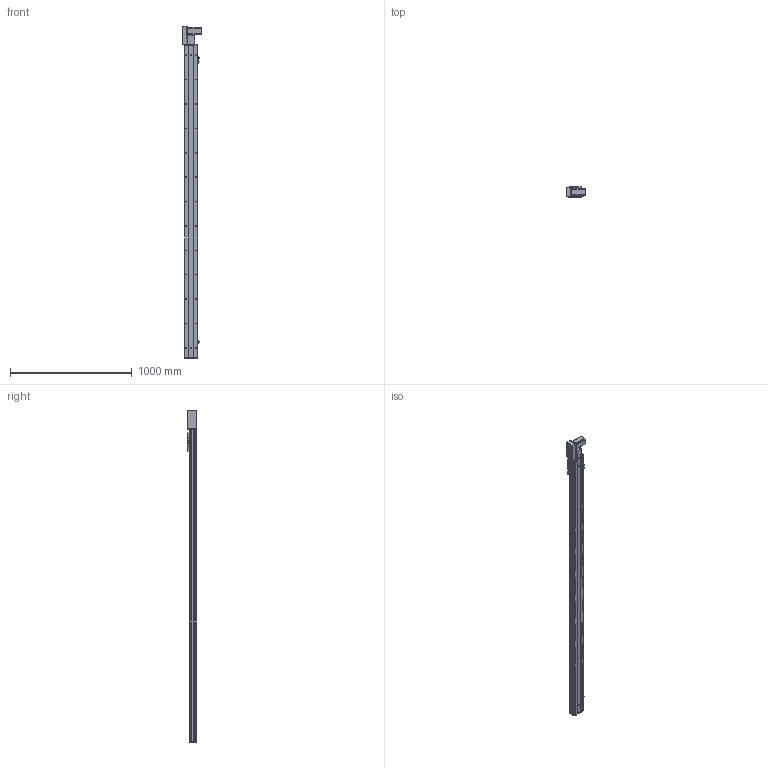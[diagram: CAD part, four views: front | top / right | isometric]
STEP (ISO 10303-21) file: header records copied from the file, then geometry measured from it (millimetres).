
FILE_DESCRIPTION (( 'STEP AP203' ), '1' );
FILE_NAME ('Y10CB-D90-S2300-BL-P400W.STEP', '2020-02-15T08:33:02', ( '微软用户' ), ( '微软中国' ), 'SwSTEP 2.0', 'SolidWorks 2017', '' );
FILE_SCHEMA (( 'CONFIG_CONTROL_DESIGN' ));
Length unit declared in the file: millimetre
Products named in the file (18): Y10C---詩湍揤啣; Y10B-耜蚾蟀諉啣----; 10CB9-掛极; 0B-萇儂楊擘啣; 10CB-耜裔; san松下电机400不带刹车----; Y135C-陔俋离換覜結え-; 0B-源倛裔啣; Y100-135俋离換覜ん--; 0B-埴倛裔啣; 0CB-雄赽釱---; Y10CB-D90-S2300-BL-P400W; Y俋欶BR----; 0Cb-俋欶---; 10CB-詩湍-; Y10B-々湍喘謫眊楊擘啣--; Y10CB- 掛极耜裔啣-毀---; Y10B--々湍喘謫眊--666
Assembly tree (21 placements, depth 2):
  Y10CB-D90-S2300-BL-P400W
    0CB-雄赽釱---
    0Cb-俋欶---
    Y10B-々湍喘謫眊楊擘啣--
    Y10B--々湍喘謫眊--666
    Y10B-耜蚾蟀諉啣----
    0B-萇儂楊擘啣
    san松下电机400不带刹车----
    0B-源倛裔啣
    0B-埴倛裔啣
    Y俋欶BR----
    10CB-詩湍-
    Y10CB- 掛极耜裔啣-毀---  x2
    Y10C---詩湍揤啣  x2
    10CB9-掛极
    10CB-耜裔
    Y135C-陔俋离換覜結え-
    Y100-135俋离換覜ん--  x3
Bounding box: 157.5 x 80.5 x 2722.5 mm (x, y, z)
Volume: 5405385.3 mm3; surface area: 2557040.7 mm2
Topology: 21 solids, 21 shells, 1062 faces, 2883 edges, 1874 vertices
Faces by surface type: cylinder 547, plane 491, cone 24
Entity records: 33904 total; most frequent: CARTESIAN_POINT 6357, DIRECTION 5402, ORIENTED_EDGE 5236, EDGE_CURVE 2618, AXIS2_PLACEMENT_3D 1929, VERTEX_POINT 1700, VECTOR 1544, LINE 1544
